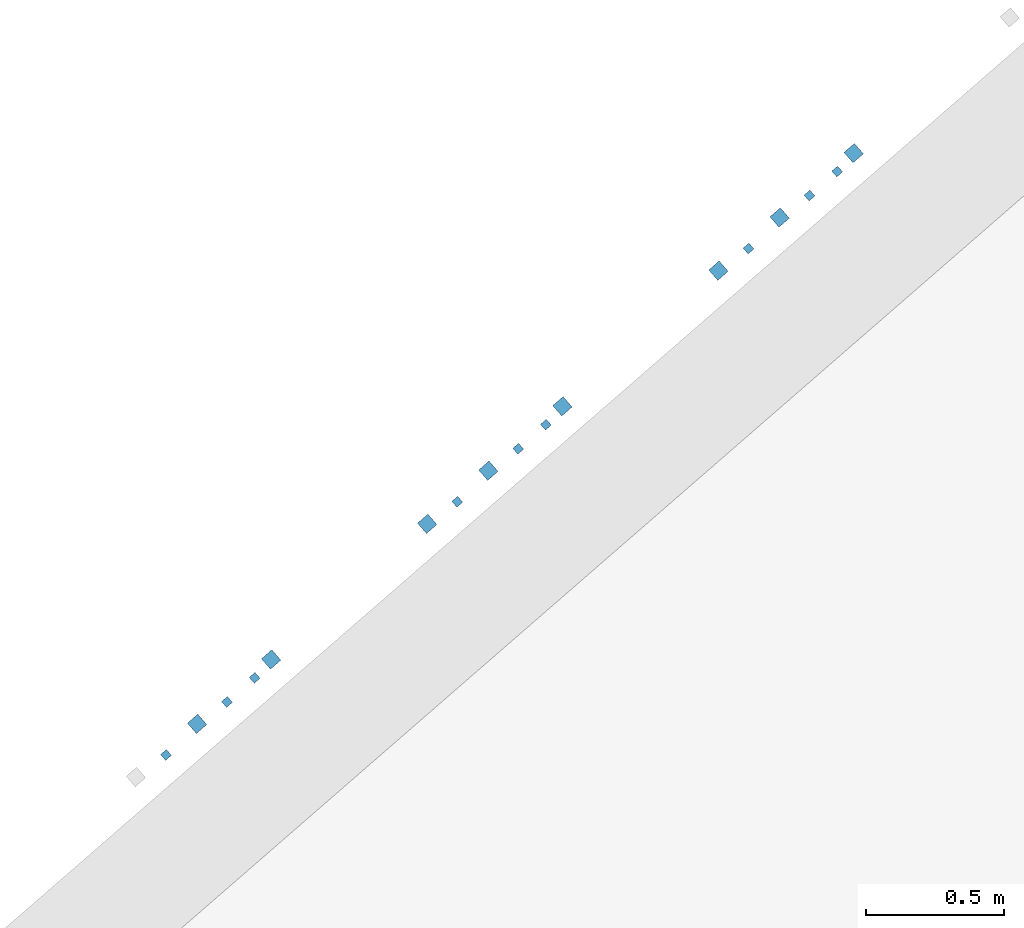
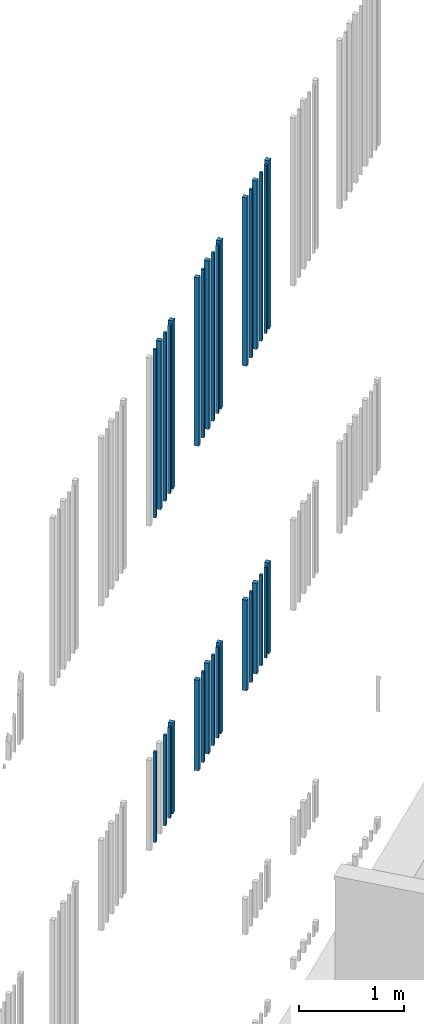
# One storey, part 78 of 124: 33 walls.
"""IFC2X3 building model written with IfcOpenShell, lengths in millimetres."""

from ifc_helpers import new_model, entity, si_unit, converted_unit, derived_unit, money_unit, direction, frame, origin_with_axes, place, context, subcontext, project, spatial, faceted_brep, material, type_object, element, save


model = new_model("IFC2X3")

# Units and contexts
model_context = context("Model", 3, precision=1e-05, world=origin_with_axes(), true_north=direction((0.0, 1.0)))
body_context = subcontext(model_context, "Body", "Model", "MODEL_VIEW")
ifc_project = project(units=[si_unit("LENGTHUNIT", "METRE", prefix="MILLI"), si_unit("AREAUNIT", "SQUARE_METRE"), si_unit("VOLUMEUNIT", "CUBIC_METRE"), converted_unit("PLANEANGLEUNIT", "DEGREE", entity("IfcPlaneAngleMeasure", 0.0174532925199), si_unit("PLANEANGLEUNIT", "RADIAN"), dimensions=[0, 0, 0, 0, 0, 0, 0]), si_unit("SOLIDANGLEUNIT", "STERADIAN"), money_unit("EUR"), converted_unit("TIMEUNIT", "Year", entity("IfcTimeMeasure", 31556926.0), si_unit("TIMEUNIT", "SECOND"), dimensions=[0, 0, 1, 0, 0, 0, 0]), si_unit("MASSUNIT", "GRAM", prefix="KILO"), si_unit("THERMODYNAMICTEMPERATUREUNIT", "DEGREE_CELSIUS"), si_unit("LUMINOUSINTENSITYUNIT", "LUMEN"), si_unit("ENERGYUNIT", "JOULE", prefix="MEGA"), derived_unit("THERMALCONDUCTANCEUNIT", [(si_unit("POWERUNIT", "WATT"), 1), (si_unit("LENGTHUNIT", "METRE"), -1), (si_unit("THERMODYNAMICTEMPERATUREUNIT", "KELVIN"), -1)]), derived_unit("SPECIFICHEATCAPACITYUNIT", [(si_unit("ENERGYUNIT", "JOULE"), 1), (si_unit("MASSUNIT", "GRAM", prefix="KILO"), -1), (si_unit("THERMODYNAMICTEMPERATUREUNIT", "KELVIN"), -1)]), derived_unit("MASSDENSITYUNIT", [(si_unit("MASSUNIT", "GRAM", prefix="KILO"), 1), (si_unit("VOLUMEUNIT", "CUBIC_METRE"), -1)])], contexts=[model_context])

# Site, building, storey
site_placement = place(None, origin_with_axes())
site = spatial("IfcSite", under=ifc_project, at=site_placement, Name="Site", CompositionType="ELEMENT")
building_placement = place(site_placement, origin_with_axes())
building = spatial("IfcBuilding", under=site, at=building_placement, Name="Building", CompositionType="ELEMENT")
storey_placement = place(building_placement, frame((0.0, 0.0, -1615.0), z_axis=(0.0, 0.0, 1.0), x_axis=(1.0, 0.0, 0.0)))
storey = spatial("IfcBuildingStorey", under=building, at=storey_placement, Name="0  korrus", CompositionType="ELEMENT", Elevation=-1615.0)

# Walls
ifc_material = material(Name="Site specified")
wall_type = type_object("IfcWallType", Name="Puitfassaadi ribistik", PredefinedType="NOTDEFINED")
wall_1_placement = place(storey_placement, frame((156952.530099, 106473.168672, 9530.0), z_axis=(0.0, 0.0, 1.0), x_axis=(0.754709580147, 0.656059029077, 0.0)))
element("IfcWall", 1, at=wall_1_placement, inside=storey, type_object=wall_type, material=ifc_material, Name="Site specified", context=body_context, shape_type="Brep", body=[
    faceted_brep([(25.0, 25.0, 1950.0), (25.0, 25.0, 0.0), (-25.0, 25.0, 0.0), (-25.0, 25.0, 1950.0), (25.0, -25.0, 1950.0), (25.0, -25.0, 0.0), (-25.0, -25.0, 0.0), (-25.0, -25.0, 1950.0)], [[[0, 1, 2, 3]], [[4, 5, 1, 0]], [[2, 1, 5, 6]], [[3, 2, 6, 7]], [[4, 0, 3, 7]], [[7, 6, 5, 4]]]),
])
wall_2_placement = place(storey_placement, frame((156892.575203, 106406.475533, 5771.0), z_axis=(0.0, 0.0, 1.0), x_axis=(0.754709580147, 0.656059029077, 0.0)))
element("IfcWall", 2, at=wall_2_placement, inside=storey, type_object=wall_type, material=ifc_material, Name="Site specified", context=body_context, shape_type="Brep", body=[
    faceted_brep([(14.0, 14.0, 1050.0), (14.0, 14.0, 0.0), (-14.0, 14.0, 0.0), (-14.0, 14.0, 1050.0), (14.0, -14.0, 1050.0), (14.0, -14.0, 0.0), (-14.0, -14.0, 0.0), (-14.0, -14.0, 1050.0)], [[[0, 1, 2, 3]], [[4, 5, 1, 0]], [[2, 1, 5, 6]], [[3, 2, 6, 7]], [[4, 0, 3, 7]], [[7, 6, 5, 4]]]),
])
for number, where, z_axis, x_axis, name in (
    (3, (156683.849237, 106239.607962, 5771.0), (0.0, 0.0, 1.0), (0.754709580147, 0.656059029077, 0.0), "Site specified"),
    (4, (156952.530099, 106473.168672, 5771.0), (0.0, 0.0, 1.0), (0.754709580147, 0.656059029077, 0.0), "Site specified"),
):
    element("IfcWall", number, at=place(storey_placement, frame(where, z_axis=z_axis, x_axis=x_axis)), inside=storey, type_object=wall_type, material=ifc_material, Name=name, context=body_context, shape_type="Brep", body=[
        faceted_brep([(25.0, 25.0, 1050.0), (25.0, 25.0, 0.0), (-25.0, 25.0, 0.0), (-25.0, 25.0, 1050.0), (25.0, -25.0, 1050.0), (25.0, -25.0, 0.0), (-25.0, -25.0, 0.0), (-25.0, -25.0, 1050.0)], [[[0, 1, 2, 3]], [[4, 5, 1, 0]], [[2, 1, 5, 6]], [[3, 2, 6, 7]], [[4, 0, 3, 7]], [[7, 6, 5, 4]]]),
    ])
wall_3_placement = place(storey_placement, frame((156892.575203, 106406.475533, 9530.0), z_axis=(0.0, 0.0, 1.0), x_axis=(0.754709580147, 0.656059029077, 0.0)))
element("IfcWall", 5, at=wall_3_placement, inside=storey, type_object=wall_type, material=ifc_material, Name="Site specified", context=body_context, shape_type="Brep", body=[
    faceted_brep([(14.0, 14.0, 1950.0), (14.0, 14.0, 0.0), (-14.0, 14.0, 0.0), (-14.0, 14.0, 1950.0), (14.0, -14.0, 1950.0), (14.0, -14.0, 0.0), (-14.0, -14.0, 0.0), (-14.0, -14.0, 1950.0)], [[[0, 1, 2, 3]], [[4, 5, 1, 0]], [[2, 1, 5, 6]], [[3, 2, 6, 7]], [[4, 0, 3, 7]], [[7, 6, 5, 4]]]),
])
wall_4_placement = place(storey_placement, frame((156683.849237, 106239.607962, 9530.0), z_axis=(0.0, 0.0, 1.0), x_axis=(0.754709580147, 0.656059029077, 0.0)))
element("IfcWall", 6, at=wall_4_placement, inside=storey, type_object=wall_type, material=ifc_material, Name="Site specified", context=body_context, shape_type="Brep", body=[
    faceted_brep([(25.0, 25.0, 1950.0), (25.0, 25.0, 0.0), (-25.0, 25.0, 0.0), (-25.0, 25.0, 1950.0), (25.0, -25.0, 1950.0), (25.0, -25.0, 0.0), (-25.0, -25.0, 0.0), (-25.0, -25.0, 1950.0)], [[[0, 1, 2, 3]], [[4, 5, 1, 0]], [[2, 1, 5, 6]], [[3, 2, 6, 7]], [[4, 0, 3, 7]], [[7, 6, 5, 4]]]),
])
for number, where, z_axis, x_axis, name in (
    (7, (155735.605417, 105400.737042, 5771.0), (0.0, 0.0, 1.0), (0.754709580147, 0.656059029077, 0.0), "Site specified"),
    (8, (156792.198829, 106319.219683, 5771.0), (0.0, 0.0, 1.0), (0.754709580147, 0.656059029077, 0.0), "Site specified"),
):
    element("IfcWall", number, at=place(storey_placement, frame(where, z_axis=z_axis, x_axis=x_axis)), inside=storey, type_object=wall_type, material=ifc_material, Name=name, context=body_context, shape_type="Brep", body=[
        faceted_brep([(14.0, 14.0, 1050.0), (14.0, 14.0, 0.0), (-14.0, 14.0, 0.0), (-14.0, 14.0, 1050.0), (14.0, -14.0, 1050.0), (14.0, -14.0, 0.0), (-14.0, -14.0, 0.0), (-14.0, -14.0, 1050.0)], [[[0, 1, 2, 3]], [[4, 5, 1, 0]], [[2, 1, 5, 6]], [[3, 2, 6, 7]], [[4, 0, 3, 7]], [[7, 6, 5, 4]]]),
    ])
wall_5_placement = place(storey_placement, frame((156461.964622, 106046.726609, 5771.0), z_axis=(0.0, 0.0, 1.0), x_axis=(0.754709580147, 0.656059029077, 0.0)))
element("IfcWall", 9, at=wall_5_placement, inside=storey, type_object=wall_type, material=ifc_material, Name="Site specified", context=body_context, shape_type="Brep", body=[
    faceted_brep([(25.0, 25.0, 1050.0), (25.0, 25.0, 0.0), (-25.0, 25.0, 0.0), (-25.0, 25.0, 1050.0), (25.0, -25.0, 1050.0), (25.0, -25.0, 0.0), (-25.0, -25.0, 0.0), (-25.0, -25.0, 1050.0)], [[[0, 1, 2, 3]], [[4, 5, 1, 0]], [[2, 1, 5, 6]], [[3, 2, 6, 7]], [[4, 0, 3, 7]], [[7, 6, 5, 4]]]),
])
wall_6_placement = place(storey_placement, frame((156571.068944, 106126.994406, 5771.0), z_axis=(0.0, 0.0, 1.0), x_axis=(0.754709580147, 0.656059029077, 0.0)))
element("IfcWall", 10, at=wall_6_placement, inside=storey, type_object=wall_type, material=ifc_material, Name="Site specified", context=body_context, shape_type="Brep", body=[
    faceted_brep([(14.0, 14.0, 1050.0), (14.0, 14.0, 0.0), (-14.0, 14.0, 0.0), (-14.0, 14.0, 1050.0), (14.0, -14.0, 1050.0), (14.0, -14.0, 0.0), (-14.0, -14.0, 0.0), (-14.0, -14.0, 1050.0)], [[[0, 1, 2, 3]], [[4, 5, 1, 0]], [[2, 1, 5, 6]], [[3, 2, 6, 7]], [[4, 0, 3, 7]], [[7, 6, 5, 4]]]),
])
wall_7_placement = place(storey_placement, frame((156461.964622, 106046.726609, 9530.0), z_axis=(0.0, 0.0, 1.0), x_axis=(0.754709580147, 0.656059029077, 0.0)))
element("IfcWall", 11, at=wall_7_placement, inside=storey, type_object=wall_type, material=ifc_material, Name="Site specified", context=body_context, shape_type="Brep", body=[
    faceted_brep([(25.0, 25.0, 1950.0), (25.0, 25.0, 0.0), (-25.0, 25.0, 0.0), (-25.0, 25.0, 1950.0), (25.0, -25.0, 1950.0), (25.0, -25.0, 0.0), (-25.0, -25.0, 0.0), (-25.0, -25.0, 1950.0)], [[[0, 1, 2, 3]], [[4, 5, 1, 0]], [[2, 1, 5, 6]], [[3, 2, 6, 7]], [[4, 0, 3, 7]], [[7, 6, 5, 4]]]),
])
wall_8_placement = place(storey_placement, frame((156571.068944, 106126.994406, 9530.0), z_axis=(0.0, 0.0, 1.0), x_axis=(0.754709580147, 0.656059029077, 0.0)))
element("IfcWall", 12, at=wall_8_placement, inside=storey, type_object=wall_type, material=ifc_material, Name="Site specified", context=body_context, shape_type="Brep", body=[
    faceted_brep([(14.0, 14.0, 1950.0), (14.0, 14.0, 0.0), (-14.0, 14.0, 0.0), (-14.0, 14.0, 1950.0), (14.0, -14.0, 1950.0), (14.0, -14.0, 0.0), (-14.0, -14.0, 0.0), (-14.0, -14.0, 1950.0)], [[[0, 1, 2, 3]], [[4, 5, 1, 0]], [[2, 1, 5, 6]], [[3, 2, 6, 7]], [[4, 0, 3, 7]], [[7, 6, 5, 4]]]),
])
wall_9_placement = place(storey_placement, frame((154839.343272, 104636.203388, 5771.0), z_axis=(0.0, 0.0, 1.0), x_axis=(0.754709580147, 0.656059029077, 0.0)))
element("IfcWall", 13, at=wall_9_placement, inside=storey, type_object=wall_type, material=ifc_material, Name="Site specified", context=body_context, shape_type="Brep", body=[
    faceted_brep([(25.0, 25.0, 1050.0), (25.0, 25.0, 0.0), (-25.0, 25.0, 0.0), (-25.0, 25.0, 1050.0), (25.0, -25.0, 1050.0), (25.0, -25.0, 0.0), (-25.0, -25.0, 0.0), (-25.0, -25.0, 1050.0)], [[[0, 1, 2, 3]], [[4, 5, 1, 0]], [[2, 1, 5, 6]], [[3, 2, 6, 7]], [[4, 0, 3, 7]], [[7, 6, 5, 4]]]),
])
for number, where, z_axis, x_axis, name in (
    (14, (154779.388376, 104569.510249, 9530.0), (0.0, 0.0, 1.0), (0.754709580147, 0.656059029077, 0.0), "Site specified"),
    (15, (154457.882117, 104290.029123, 9530.0), (0.0, 0.0, 1.0), (0.754709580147, 0.656059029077, 0.0), "Site specified"),
    (16, (156792.198829, 106319.219683, 9530.0), (0.0, 0.0, 1.0), (0.754709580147, 0.656059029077, 0.0), "Site specified"),
):
    element("IfcWall", number, at=place(storey_placement, frame(where, z_axis=z_axis, x_axis=x_axis)), inside=storey, type_object=wall_type, material=ifc_material, Name=name, context=body_context, shape_type="Brep", body=[
        faceted_brep([(14.0, 14.0, 1950.0), (14.0, 14.0, 0.0), (-14.0, 14.0, 0.0), (-14.0, 14.0, 1950.0), (14.0, -14.0, 1950.0), (14.0, -14.0, 0.0), (-14.0, -14.0, 0.0), (-14.0, -14.0, 1950.0)], [[[0, 1, 2, 3]], [[4, 5, 1, 0]], [[2, 1, 5, 6]], [[3, 2, 6, 7]], [[4, 0, 3, 7]], [[7, 6, 5, 4]]]),
    ])
wall_10_placement = place(storey_placement, frame((155627.255825, 105321.125321, 5771.0), z_axis=(0.0, 0.0, 1.0), x_axis=(0.754709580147, 0.656059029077, 0.0)))
element("IfcWall", 17, at=wall_10_placement, inside=storey, type_object=wall_type, material=ifc_material, Name="Site specified", context=body_context, shape_type="Brep", body=[
    faceted_brep([(25.0, 25.0, 1050.0), (25.0, 25.0, 0.0), (-25.0, 25.0, 0.0), (-25.0, 25.0, 1050.0), (25.0, -25.0, 1050.0), (25.0, -25.0, 0.0), (-25.0, -25.0, 0.0), (-25.0, -25.0, 1050.0)], [[[0, 1, 2, 3]], [[4, 5, 1, 0]], [[2, 1, 5, 6]], [[3, 2, 6, 7]], [[4, 0, 3, 7]], [[7, 6, 5, 4]]]),
])
wall_11_placement = place(storey_placement, frame((155405.37121, 105128.243968, 9530.0), z_axis=(0.0, 0.0, 1.0), x_axis=(0.754709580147, 0.656059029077, 0.0)))
element("IfcWall", 18, at=wall_11_placement, inside=storey, type_object=wall_type, material=ifc_material, Name="Site specified", context=body_context, shape_type="Brep", body=[
    faceted_brep([(25.0, 25.0, 1950.0), (25.0, 25.0, 0.0), (-25.0, 25.0, 0.0), (-25.0, 25.0, 1950.0), (25.0, -25.0, 1950.0), (25.0, -25.0, 0.0), (-25.0, -25.0, 0.0), (-25.0, -25.0, 1950.0)], [[[0, 1, 2, 3]], [[4, 5, 1, 0]], [[2, 1, 5, 6]], [[3, 2, 6, 7]], [[4, 0, 3, 7]], [[7, 6, 5, 4]]]),
])
wall_12_placement = place(storey_placement, frame((155514.475532, 105208.511766, 9530.0), z_axis=(0.0, 0.0, 1.0), x_axis=(0.754709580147, 0.656059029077, 0.0)))
element("IfcWall", 19, at=wall_12_placement, inside=storey, type_object=wall_type, material=ifc_material, Name="Site specified", context=body_context, shape_type="Brep", body=[
    faceted_brep([(14.0, 14.0, 1950.0), (14.0, 14.0, 0.0), (-14.0, 14.0, 0.0), (-14.0, 14.0, 1950.0), (14.0, -14.0, 1950.0), (14.0, -14.0, 0.0), (-14.0, -14.0, 0.0), (-14.0, -14.0, 1950.0)], [[[0, 1, 2, 3]], [[4, 5, 1, 0]], [[2, 1, 5, 6]], [[3, 2, 6, 7]], [[4, 0, 3, 7]], [[7, 6, 5, 4]]]),
])
wall_13_placement = place(storey_placement, frame((155627.255825, 105321.125321, 9530.0), z_axis=(0.0, 0.0, 1.0), x_axis=(0.754709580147, 0.656059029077, 0.0)))
element("IfcWall", 20, at=wall_13_placement, inside=storey, type_object=wall_type, material=ifc_material, Name="Site specified", context=body_context, shape_type="Brep", body=[
    faceted_brep([(25.0, 25.0, 1950.0), (25.0, 25.0, 0.0), (-25.0, 25.0, 0.0), (-25.0, 25.0, 1950.0), (25.0, -25.0, 1950.0), (25.0, -25.0, 0.0), (-25.0, -25.0, 0.0), (-25.0, -25.0, 1950.0)], [[[0, 1, 2, 3]], [[4, 5, 1, 0]], [[2, 1, 5, 6]], [[3, 2, 6, 7]], [[4, 0, 3, 7]], [[7, 6, 5, 4]]]),
])
for number, where, z_axis, x_axis, name in (
    (21, (155835.981791, 105487.992893, 9530.0), (0.0, 0.0, 1.0), (0.754709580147, 0.656059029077, 0.0), "Site specified"),
    (22, (155735.605417, 105400.737042, 9530.0), (0.0, 0.0, 1.0), (0.754709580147, 0.656059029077, 0.0), "Site specified"),
):
    element("IfcWall", number, at=place(storey_placement, frame(where, z_axis=z_axis, x_axis=x_axis)), inside=storey, type_object=wall_type, material=ifc_material, Name=name, context=body_context, shape_type="Brep", body=[
        faceted_brep([(14.0, 14.0, 1950.0), (14.0, 14.0, 0.0), (-14.0, 14.0, 0.0), (-14.0, 14.0, 1950.0), (14.0, -14.0, 1950.0), (14.0, -14.0, 0.0), (-14.0, -14.0, 0.0), (-14.0, -14.0, 1950.0)], [[[0, 1, 2, 3]], [[4, 5, 1, 0]], [[2, 1, 5, 6]], [[3, 2, 6, 7]], [[4, 0, 3, 7]], [[7, 6, 5, 4]]]),
    ])
wall_14_placement = place(storey_placement, frame((155895.936687, 105554.686032, 9530.0), z_axis=(0.0, 0.0, 1.0), x_axis=(0.754709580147, 0.656059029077, 0.0)))
element("IfcWall", 23, at=wall_14_placement, inside=storey, type_object=wall_type, material=ifc_material, Name="Site specified", context=body_context, shape_type="Brep", body=[
    faceted_brep([(25.0, 25.0, 1950.0), (25.0, 25.0, 0.0), (-25.0, 25.0, 0.0), (-25.0, 25.0, 1950.0), (25.0, -25.0, 1950.0), (25.0, -25.0, 0.0), (-25.0, -25.0, 0.0), (-25.0, -25.0, 1950.0)], [[[0, 1, 2, 3]], [[4, 5, 1, 0]], [[2, 1, 5, 6]], [[3, 2, 6, 7]], [[4, 0, 3, 7]], [[7, 6, 5, 4]]]),
])
for number, where, z_axis, x_axis, name in (
    (24, (154679.012002, 104482.254399, 5771.0), (0.0, 0.0, 1.0), (0.754709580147, 0.656059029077, 0.0), "Site specified"),
    (25, (154457.882117, 104290.029123, 5771.0), (0.0, 0.0, 1.0), (0.754709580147, 0.656059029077, 0.0), "Site specified"),
    (26, (154779.388376, 104569.510249, 5771.0), (0.0, 0.0, 1.0), (0.754709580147, 0.656059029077, 0.0), "Site specified"),
):
    element("IfcWall", number, at=place(storey_placement, frame(where, z_axis=z_axis, x_axis=x_axis)), inside=storey, type_object=wall_type, material=ifc_material, Name=name, context=body_context, shape_type="Brep", body=[
        faceted_brep([(14.0, 14.0, 1050.0), (14.0, 14.0, 0.0), (-14.0, 14.0, 0.0), (-14.0, 14.0, 1050.0), (14.0, -14.0, 1050.0), (14.0, -14.0, 0.0), (-14.0, -14.0, 0.0), (-14.0, -14.0, 1050.0)], [[[0, 1, 2, 3]], [[4, 5, 1, 0]], [[2, 1, 5, 6]], [[3, 2, 6, 7]], [[4, 0, 3, 7]], [[7, 6, 5, 4]]]),
    ])
wall_15_placement = place(storey_placement, frame((154679.012002, 104482.254399, 9530.0), z_axis=(0.0, 0.0, 1.0), x_axis=(0.754709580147, 0.656059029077, 0.0)))
element("IfcWall", 27, at=wall_15_placement, inside=storey, type_object=wall_type, material=ifc_material, Name="Site specified", context=body_context, shape_type="Brep", body=[
    faceted_brep([(14.0, 14.0, 1950.0), (14.0, 14.0, 0.0), (-14.0, 14.0, 0.0), (-14.0, 14.0, 1950.0), (14.0, -14.0, 1950.0), (14.0, -14.0, 0.0), (-14.0, -14.0, 0.0), (-14.0, -14.0, 1950.0)], [[[0, 1, 2, 3]], [[4, 5, 1, 0]], [[2, 1, 5, 6]], [[3, 2, 6, 7]], [[4, 0, 3, 7]], [[7, 6, 5, 4]]]),
])
for number, where, z_axis, x_axis, name in (
    (28, (154839.343272, 104636.203388, 9530.0), (0.0, 0.0, 1.0), (0.754709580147, 0.656059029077, 0.0), "Site specified"),
    (29, (154570.66241, 104402.642678, 9530.0), (0.0, 0.0, 1.0), (0.754709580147, 0.656059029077, 0.0), "Site specified"),
):
    element("IfcWall", number, at=place(storey_placement, frame(where, z_axis=z_axis, x_axis=x_axis)), inside=storey, type_object=wall_type, material=ifc_material, Name=name, context=body_context, shape_type="Brep", body=[
        faceted_brep([(25.0, 25.0, 1950.0), (25.0, 25.0, 0.0), (-25.0, 25.0, 0.0), (-25.0, 25.0, 1950.0), (25.0, -25.0, 1950.0), (25.0, -25.0, 0.0), (-25.0, -25.0, 0.0), (-25.0, -25.0, 1950.0)], [[[0, 1, 2, 3]], [[4, 5, 1, 0]], [[2, 1, 5, 6]], [[3, 2, 6, 7]], [[4, 0, 3, 7]], [[7, 6, 5, 4]]]),
    ])
wall_16_placement = place(storey_placement, frame((155405.37121, 105128.243968, 5771.0), z_axis=(0.0, 0.0, 1.0), x_axis=(0.754709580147, 0.656059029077, 0.0)))
element("IfcWall", 30, at=wall_16_placement, inside=storey, type_object=wall_type, material=ifc_material, Name="Site specified", context=body_context, shape_type="Brep", body=[
    faceted_brep([(25.0, 25.0, 1050.0), (25.0, 25.0, 0.0), (-25.0, 25.0, 0.0), (-25.0, 25.0, 1050.0), (25.0, -25.0, 1050.0), (25.0, -25.0, 0.0), (-25.0, -25.0, 0.0), (-25.0, -25.0, 1050.0)], [[[0, 1, 2, 3]], [[4, 5, 1, 0]], [[2, 1, 5, 6]], [[3, 2, 6, 7]], [[4, 0, 3, 7]], [[7, 6, 5, 4]]]),
])
wall_17_placement = place(storey_placement, frame((155835.981791, 105487.992893, 5771.0), z_axis=(0.0, 0.0, 1.0), x_axis=(0.754709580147, 0.656059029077, 0.0)))
element("IfcWall", 31, at=wall_17_placement, inside=storey, type_object=wall_type, material=ifc_material, Name="Site specified", context=body_context, shape_type="Brep", body=[
    faceted_brep([(14.0, 14.0, 1050.0), (14.0, 14.0, 0.0), (-14.0, 14.0, 0.0), (-14.0, 14.0, 1050.0), (14.0, -14.0, 1050.0), (14.0, -14.0, 0.0), (-14.0, -14.0, 0.0), (-14.0, -14.0, 1050.0)], [[[0, 1, 2, 3]], [[4, 5, 1, 0]], [[2, 1, 5, 6]], [[3, 2, 6, 7]], [[4, 0, 3, 7]], [[7, 6, 5, 4]]]),
])
wall_18_placement = place(storey_placement, frame((155895.936687, 105554.686032, 5771.0), z_axis=(0.0, 0.0, 1.0), x_axis=(0.754709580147, 0.656059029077, 0.0)))
element("IfcWall", 32, at=wall_18_placement, inside=storey, type_object=wall_type, material=ifc_material, Name="Site specified", context=body_context, shape_type="Brep", body=[
    faceted_brep([(25.0, 25.0, 1050.0), (25.0, 25.0, 0.0), (-25.0, 25.0, 0.0), (-25.0, 25.0, 1050.0), (25.0, -25.0, 1050.0), (25.0, -25.0, 0.0), (-25.0, -25.0, 0.0), (-25.0, -25.0, 1050.0)], [[[0, 1, 2, 3]], [[4, 5, 1, 0]], [[2, 1, 5, 6]], [[3, 2, 6, 7]], [[4, 0, 3, 7]], [[7, 6, 5, 4]]]),
])
wall_19_placement = place(storey_placement, frame((155514.475532, 105208.511766, 5771.0), z_axis=(0.0, 0.0, 1.0), x_axis=(0.754709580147, 0.656059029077, 0.0)))
element("IfcWall", 33, at=wall_19_placement, inside=storey, type_object=wall_type, material=ifc_material, Name="Site specified", context=body_context, shape_type="Brep", body=[
    faceted_brep([(14.0, 14.0, 1050.0), (14.0, 14.0, 0.0), (-14.0, 14.0, 0.0), (-14.0, 14.0, 1050.0), (14.0, -14.0, 1050.0), (14.0, -14.0, 0.0), (-14.0, -14.0, 0.0), (-14.0, -14.0, 1050.0)], [[[0, 1, 2, 3]], [[4, 5, 1, 0]], [[2, 1, 5, 6]], [[3, 2, 6, 7]], [[4, 0, 3, 7]], [[7, 6, 5, 4]]]),
])

save(model, "model.ifc")
